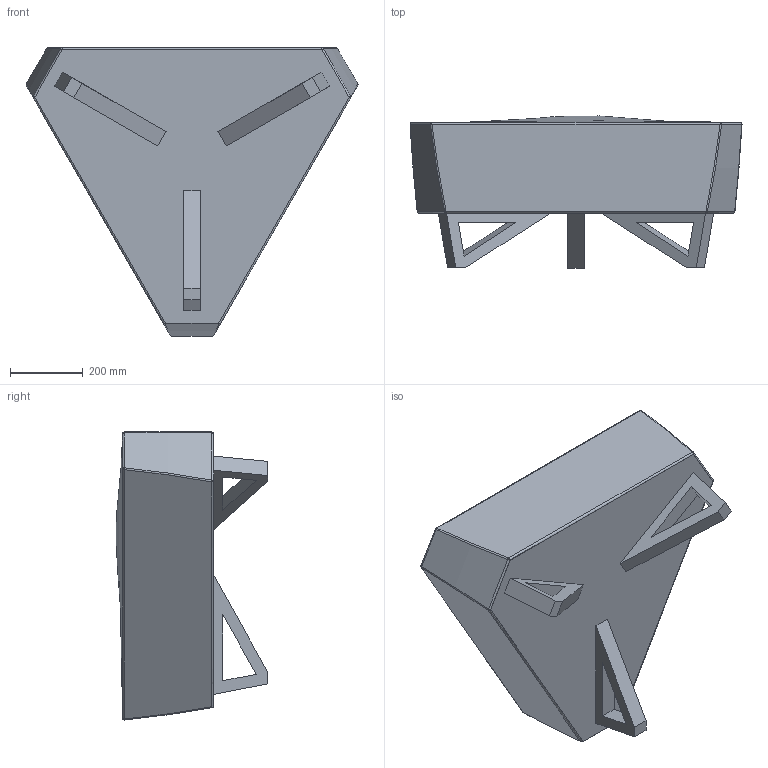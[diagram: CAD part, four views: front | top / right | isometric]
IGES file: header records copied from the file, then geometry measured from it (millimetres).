
Start section: SolidWorks IGES file using analytic representation for surfaces
Global section: file name: P:\3D CAD BLOCKS\us\TRIANGLE CORNER LINK UNIT\us - TRIANGLE CORNER LINK UNIT.IGS; native system: SolidWorks 2012; preprocessor: SolidWorks 2012; author: adam; date: 140220.190825; units: millimetre
Bounding box: 914.15 x 417.94 x 793.03 mm (x, y, z)
Surface area: 2659975.2 mm2 (no closed solid volume)
Topology: 0 solids, 0 shells, 73 faces, 402 edges, 393 vertices
Faces by surface type: bspline 46, revolution 27
